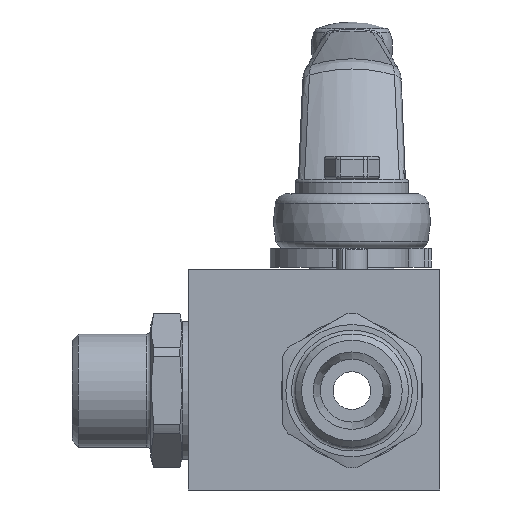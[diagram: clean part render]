
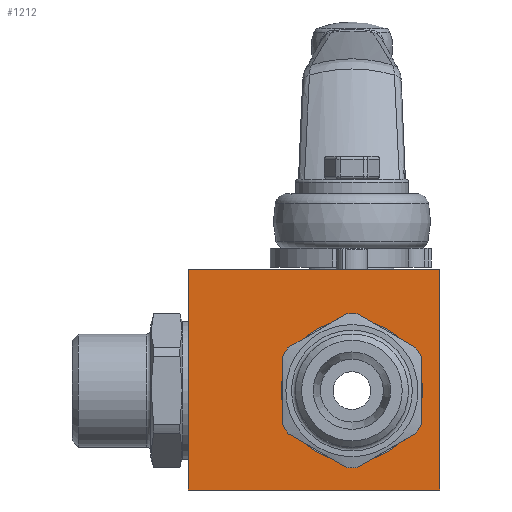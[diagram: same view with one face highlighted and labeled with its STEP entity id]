
A CAD part, front view. The second image highlights one B-rep face of the part: STEP entity #1212.
In plain terms, the highlighted planar face has unit normal (0, -1, 0).
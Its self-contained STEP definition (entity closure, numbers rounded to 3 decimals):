
#1212 = ADVANCED_FACE( '', ( #2417, #2418 ), #2419, .T. );
#2417 = FACE_OUTER_BOUND( '', #4403, .T. );
#2418 = FACE_BOUND( '', #4404, .T. );
#2419 = PLANE( '', #4405 );
#4403 = EDGE_LOOP( '', ( #7408, #7409, #7410, #7411 ) );
#4404 = EDGE_LOOP( '', ( #7412 ) );
#4405 = AXIS2_PLACEMENT_3D( '', #7413, #7414, #7415 );
#7408 = ORIENTED_EDGE( '', *, *, #8678, .T. );
#7409 = ORIENTED_EDGE( '', *, *, #8550, .T. );
#7410 = ORIENTED_EDGE( '', *, *, #8866, .T. );
#7411 = ORIENTED_EDGE( '', *, *, #8921, .T. );
#7412 = ORIENTED_EDGE( '', *, *, #8872, .T. );
#7413 = CARTESIAN_POINT( '', ( -26., -17.5, -15.8 ) );
#7414 = DIRECTION( '', ( 0., -1., 0. ) );
#7415 = DIRECTION( '', ( 0., 0., -1. ) );
#8550 = EDGE_CURVE( '', #10154, #10152, #10155, .T. );
#8678 = EDGE_CURVE( '', #10326, #10154, #10327, .T. );
#8866 = EDGE_CURVE( '', #10152, #10557, #10559, .T. );
#8872 = EDGE_CURVE( '', #10565, #10565, #10566, .T. );
#8921 = EDGE_CURVE( '', #10557, #10326, #10617, .T. );
#10152 = VERTEX_POINT( '', #13124 );
#10154 = VERTEX_POINT( '', #13127 );
#10155 = LINE( '', #13128, #13129 );
#10326 = VERTEX_POINT( '', #13470 );
#10327 = LINE( '', #13471, #13472 );
#10557 = VERTEX_POINT( '', #14050 );
#10559 = LINE( '', #14053, #14054 );
#10565 = VERTEX_POINT( '', #14062 );
#10566 = CIRCLE( '', #14063, 11.25 );
#10617 = LINE( '', #14130, #14131 );
#13124 = CARTESIAN_POINT( '', ( 14., -17.5, -15.8 ) );
#13127 = CARTESIAN_POINT( '', ( -26., -17.5, -15.8 ) );
#13128 = CARTESIAN_POINT( '', ( -26., -17.5, -15.8 ) );
#13129 = VECTOR( '', #15167, 1000. );
#13470 = CARTESIAN_POINT( '', ( -26., -17.5, 19.2 ) );
#13471 = CARTESIAN_POINT( '', ( -26., -17.5, 19.2 ) );
#13472 = VECTOR( '', #15304, 1000. );
#14050 = CARTESIAN_POINT( '', ( 14., -17.5, 19.2 ) );
#14053 = CARTESIAN_POINT( '', ( 14., -17.5, -15.8 ) );
#14054 = VECTOR( '', #15487, 1000. );
#14062 = CARTESIAN_POINT( '', ( 11.25, -17.5, 0. ) );
#14063 = AXIS2_PLACEMENT_3D( '', #15490, #15491, #15492 );
#14130 = CARTESIAN_POINT( '', ( 14., -17.5, 19.2 ) );
#14131 = VECTOR( '', #15519, 1000. );
#15167 = DIRECTION( '', ( 1., 0., 0. ) );
#15304 = DIRECTION( '', ( 0., 0., -1. ) );
#15487 = DIRECTION( '', ( 0., 0., 1. ) );
#15490 = CARTESIAN_POINT( '', ( 0., -17.5, 0. ) );
#15491 = DIRECTION( '', ( 0., 1., 0. ) );
#15492 = DIRECTION( '', ( 1., 0., 0. ) );
#15519 = DIRECTION( '', ( -1., 0., 0. ) );
